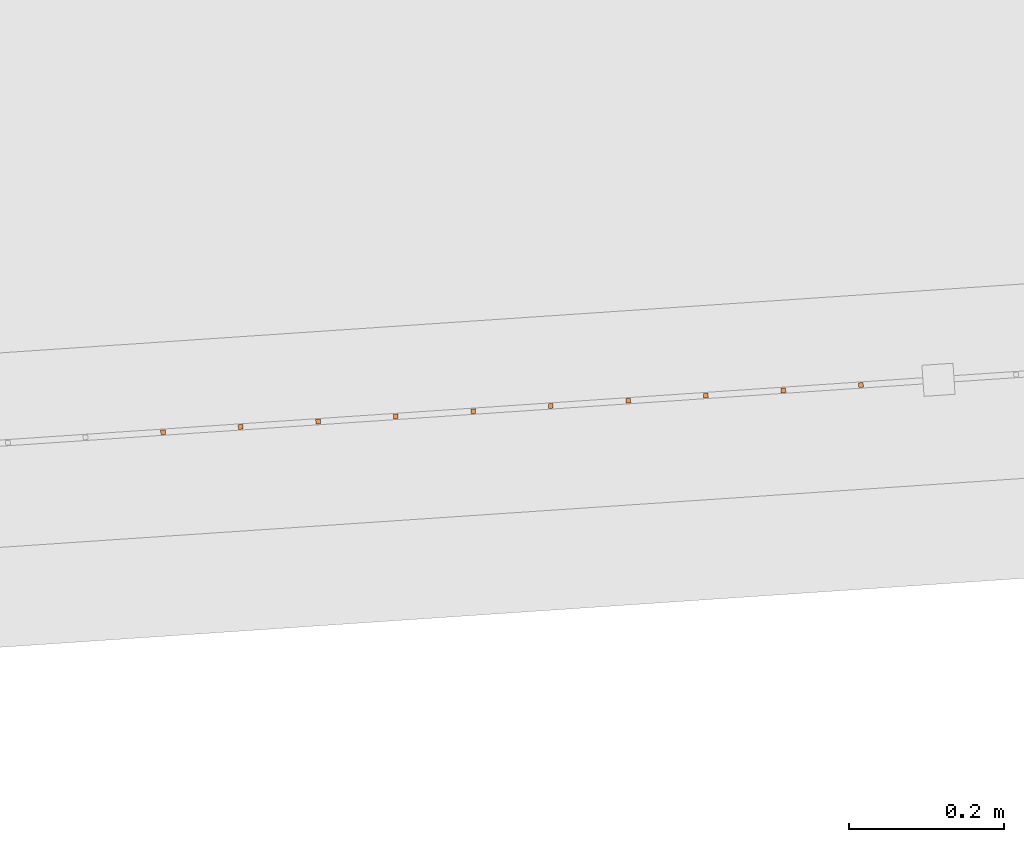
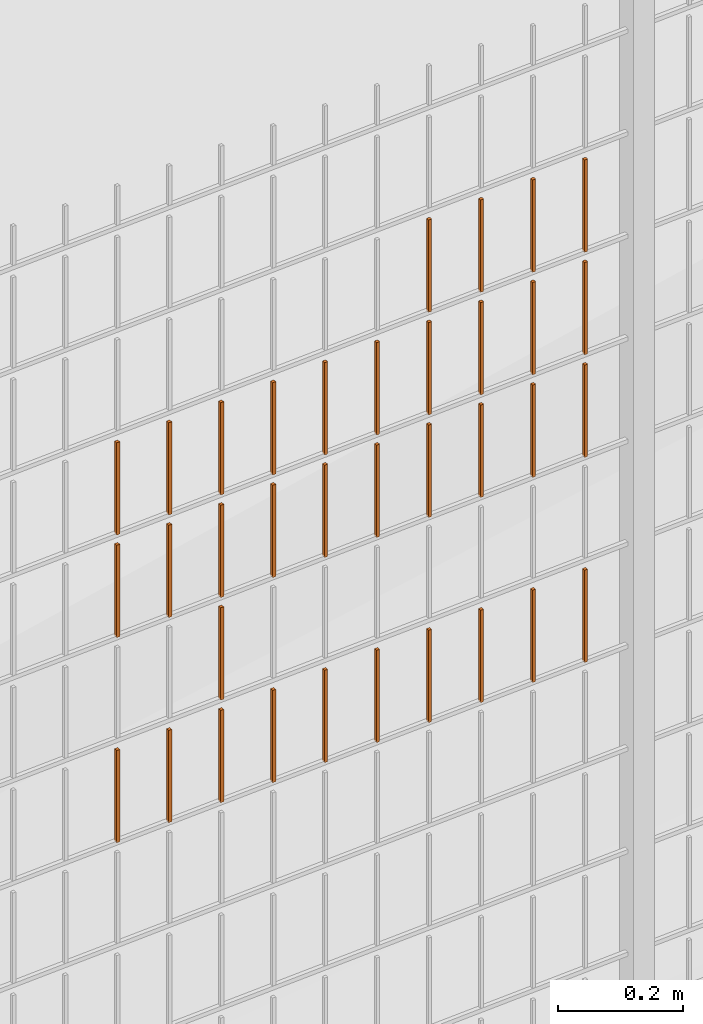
# One storey, part 95 of 1809: 35 proxies, 1 element without a shape of its own.
"""IFC2X3 building model written with IfcOpenShell, lengths in millimetres."""

from ifc_helpers import new_model, entity, si_unit, converted_unit, derived_unit, money_unit, direction, frame, origin_with_axes, place, context, subcontext, project, spatial, faceted_brep, source, transform, mapped, material, type_object, element, aggregate, save


model = new_model("IFC2X3")

# Units and contexts
model_context = context("Model", 3, precision=0.01, world=origin_with_axes(), true_north=direction((0.0, 1.0)))
body_context = subcontext(model_context, "Body", "Model", "MODEL_VIEW")
ifc_project = project(units=[si_unit("LENGTHUNIT", "METRE", prefix="MILLI"), si_unit("AREAUNIT", "SQUARE_METRE"), si_unit("VOLUMEUNIT", "CUBIC_METRE"), converted_unit("PLANEANGLEUNIT", "DEGREE", entity("IfcPlaneAngleMeasure", 0.0174532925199), si_unit("PLANEANGLEUNIT", "RADIAN"), dimensions=[0, 0, 0, 0, 0, 0, 0]), si_unit("SOLIDANGLEUNIT", "STERADIAN"), money_unit("EUR"), converted_unit("TIMEUNIT", "Year", entity("IfcTimeMeasure", 31556926.0), si_unit("TIMEUNIT", "SECOND"), dimensions=[0, 0, 1, 0, 0, 0, 0]), si_unit("MASSUNIT", "GRAM", prefix="KILO"), si_unit("THERMODYNAMICTEMPERATUREUNIT", "DEGREE_CELSIUS"), si_unit("LUMINOUSINTENSITYUNIT", "LUMEN"), si_unit("ENERGYUNIT", "JOULE", prefix="MEGA"), derived_unit("THERMALCONDUCTANCEUNIT", [(si_unit("POWERUNIT", "WATT"), 1), (si_unit("LENGTHUNIT", "METRE"), -1), (si_unit("THERMODYNAMICTEMPERATUREUNIT", "KELVIN"), -1)]), derived_unit("SPECIFICHEATCAPACITYUNIT", [(si_unit("ENERGYUNIT", "JOULE"), 1), (si_unit("MASSUNIT", "GRAM", prefix="KILO"), -1), (si_unit("THERMODYNAMICTEMPERATUREUNIT", "KELVIN"), -1)]), derived_unit("MASSDENSITYUNIT", [(si_unit("MASSUNIT", "GRAM", prefix="KILO"), 1), (si_unit("VOLUMEUNIT", "CUBIC_METRE"), -1)])], contexts=[model_context])

# Site, building, storey
site_placement = place(None, origin_with_axes())
site = spatial("IfcSite", under=ifc_project, at=site_placement, Name="Politse- ja Piirivalveameti ning Päästeameti ühishoone", CompositionType="ELEMENT")
building_placement = place(site_placement, origin_with_axes())
building = spatial("IfcBuilding", under=site, at=building_placement, Name="Politse- ja Piirivalveameti ning Päästeameti ühishoone", CompositionType="ELEMENT")
storey_placement = place(building_placement, origin_with_axes())
storey = spatial("IfcBuildingStorey", under=building, at=storey_placement, Name="Esimene korrus", CompositionType="ELEMENT", Elevation=0.0)

# Proxies
building_element_proxy_type_1 = type_object("IfcBuildingElementProxyType", Name="Railing Type", PredefinedType="NOTDEFINED")
proxy_1_placement = place(storey_placement, frame((89252.001212, -29183.4766571, 203.661247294), z_axis=(0.0, 0.0, 1.0), x_axis=(1.0, 0.0, 0.0)))
proxy_1 = element("IfcBuildingElementProxy", 1, at=proxy_1_placement, inside=storey, type_object=building_element_proxy_type_1, Name="PIIRDEAED")
ifc_material = material(Name="ET-03_Raud")
building_element_proxy_type_2 = type_object("IfcBuildingElementProxyType", Name="IfcBuildingElementProxy", PredefinedType="NOTDEFINED")
shared_shape_1 = source(origin_with_axes(), body_context, "Body", "Brep", [
    faceted_brep([(3.0, 3.0, -0.000752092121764), (-3.0, 3.0, -0.000752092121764), (-3.0, 3.0, 179.99926046), (3.0, 3.0, 179.99926046), (3.0, -3.0, 0.000752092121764), (-3.0, -3.0, 0.000752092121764), (-3.0, -3.0, 180.000764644), (3.0, -3.0, 180.000764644)], [[[0, 1, 2, 3]], [[0, 4, 5, 1]], [[1, 5, 6, 2]], [[3, 2, 6, 7]], [[4, 0, 3, 7]], [[5, 4, 7, 6]]]),
])
proxy_2_placement = place(proxy_1_placement, frame((-98103.1452171, -23924.2719931, 1202.58414305), z_axis=(0.0, 0.0, 1.0), x_axis=(1.0, 0.0, 0.0)))
proxy_2 = element("IfcBuildingElementProxy", 2, at=proxy_2_placement, type_object=building_element_proxy_type_2, material=ifc_material, Name="BALUSTER - 001", context=body_context, shape_type="MappedRepresentation", body=[
    mapped(shared_shape_1, transform((0.0, 0.0, 0.0), x_axis=(-0.0673926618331, 0.997726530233, 0.0), y_axis=(-0.997726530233, -0.0673926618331, 0.0), z_axis=(0.0, 0.0, 1.0))),
])
shared_shape_2 = source(origin_with_axes(), body_context, "Body", "Brep", [
    faceted_brep([(3.0, 3.0, -0.000752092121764), (-3.0, 3.0, -0.000752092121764), (-3.0, 3.0, 179.99926046), (3.0, 3.0, 179.99926046), (3.0, -3.0, 0.000752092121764), (-3.0, -3.0, 0.000752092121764), (-3.0, -3.0, 180.000764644), (3.0, -3.0, 180.000764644)], [[[0, 1, 2, 3]], [[0, 4, 5, 1]], [[1, 5, 6, 2]], [[3, 2, 6, 7]], [[4, 0, 3, 7]], [[5, 4, 7, 6]]]),
])
proxy_3_placement = place(proxy_1_placement, frame((-98103.1452171, -23924.2719931, 1402.58414305), z_axis=(0.0, 0.0, 1.0), x_axis=(1.0, 0.0, 0.0)))
proxy_3 = element("IfcBuildingElementProxy", 3, at=proxy_3_placement, type_object=building_element_proxy_type_2, material=ifc_material, Name="BALUSTER - 001", context=body_context, shape_type="MappedRepresentation", body=[
    mapped(shared_shape_2, transform((0.0, 0.0, 0.0), x_axis=(-0.0673926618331, 0.997726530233, 0.0), y_axis=(-0.997726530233, -0.0673926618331, 0.0), z_axis=(0.0, 0.0, 1.0))),
])
shared_shape_3 = source(origin_with_axes(), body_context, "Body", "Brep", [
    faceted_brep([(3.0, 3.0, -0.000752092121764), (-3.0, 3.0, -0.000752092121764), (-3.0, 3.0, 179.99926046), (3.0, 3.0, 179.99926046), (3.0, -3.0, 0.000752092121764), (-3.0, -3.0, 0.000752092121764), (-3.0, -3.0, 180.000764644), (3.0, -3.0, 180.000764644)], [[[0, 1, 2, 3]], [[0, 4, 5, 1]], [[1, 5, 6, 2]], [[3, 2, 6, 7]], [[4, 0, 3, 7]], [[5, 4, 7, 6]]]),
])
proxy_4_placement = place(proxy_1_placement, frame((-97604.281952, -23890.5756622, 1202.70949174), z_axis=(0.0, 0.0, 1.0), x_axis=(1.0, 0.0, 0.0)))
proxy_4 = element("IfcBuildingElementProxy", 4, at=proxy_4_placement, type_object=building_element_proxy_type_2, material=ifc_material, Name="BALUSTER - 001", context=body_context, shape_type="MappedRepresentation", body=[
    mapped(shared_shape_3, transform((0.0, 0.0, 0.0), x_axis=(-0.0673926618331, 0.997726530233, 0.0), y_axis=(-0.997726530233, -0.0673926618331, 0.0), z_axis=(0.0, 0.0, 1.0))),
])
shared_shape_4 = source(origin_with_axes(), body_context, "Body", "Brep", [
    faceted_brep([(3.0, 3.0, -0.000752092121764), (-3.0, 3.0, -0.000752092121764), (-3.0, 3.0, 179.99926046), (3.0, 3.0, 179.99926046), (3.0, -3.0, 0.000752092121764), (-3.0, -3.0, 0.000752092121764), (-3.0, -3.0, 180.000764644), (3.0, -3.0, 180.000764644)], [[[0, 1, 2, 3]], [[0, 4, 5, 1]], [[1, 5, 6, 2]], [[3, 2, 6, 7]], [[4, 0, 3, 7]], [[5, 4, 7, 6]]]),
])
proxy_5_placement = place(proxy_1_placement, frame((-97604.281952, -23890.5756622, 802.709491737), z_axis=(0.0, 0.0, 1.0), x_axis=(1.0, 0.0, 0.0)))
proxy_5 = element("IfcBuildingElementProxy", 5, at=proxy_5_placement, type_object=building_element_proxy_type_2, material=ifc_material, Name="BALUSTER - 001", context=body_context, shape_type="MappedRepresentation", body=[
    mapped(shared_shape_4, transform((0.0, 0.0, 0.0), x_axis=(-0.0673926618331, 0.997726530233, 0.0), y_axis=(-0.997726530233, -0.0673926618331, 0.0), z_axis=(0.0, 0.0, 1.0))),
])
shared_shape_5 = source(origin_with_axes(), body_context, "Body", "Brep", [
    faceted_brep([(3.0, 3.0, -0.000752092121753), (-3.0, 3.0, -0.000752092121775), (-3.0, 3.0, 179.99926046), (3.0, 3.0, 179.99926046), (3.0, -3.0, 0.000752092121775), (-3.0, -3.0, 0.000752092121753), (-3.0, -3.0, 180.000764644), (3.0, -3.0, 180.000764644)], [[[0, 1, 2, 3]], [[0, 4, 5, 1]], [[1, 5, 6, 2]], [[3, 2, 6, 7]], [[4, 0, 3, 7]], [[5, 4, 7, 6]]]),
])
proxy_6_placement = place(proxy_1_placement, frame((-97903.5999111, -23910.7934607, 1202.63428252), z_axis=(0.0, 0.0, 1.0), x_axis=(1.0, 0.0, 0.0)))
proxy_6 = element("IfcBuildingElementProxy", 6, at=proxy_6_placement, type_object=building_element_proxy_type_2, material=ifc_material, Name="BALUSTER - 001", context=body_context, shape_type="MappedRepresentation", body=[
    mapped(shared_shape_5, transform((0.0, 0.0, 0.0), x_axis=(-0.0673926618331, 0.997726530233, 0.0), y_axis=(-0.997726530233, -0.0673926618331, 0.0), z_axis=(0.0, 0.0, 1.0))),
])
shared_shape_6 = source(origin_with_axes(), body_context, "Body", "Brep", [
    faceted_brep([(3.0, 3.0, -0.000752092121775), (-3.0, 3.0, -0.000752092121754), (-3.0, 3.0, 179.99926046), (3.0, 3.0, 179.99926046), (3.0, -3.0, 0.000752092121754), (-3.0, -3.0, 0.000752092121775), (-3.0, -3.0, 180.000764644), (3.0, -3.0, 180.000764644)], [[[0, 1, 2, 3]], [[0, 4, 5, 1]], [[1, 5, 6, 2]], [[3, 2, 6, 7]], [[4, 0, 3, 7]], [[5, 4, 7, 6]]]),
])
proxy_7_placement = place(proxy_1_placement, frame((-97704.054605, -23897.3149284, 802.684422), z_axis=(0.0, 0.0, 1.0), x_axis=(1.0, 0.0, 0.0)))
proxy_7 = element("IfcBuildingElementProxy", 7, at=proxy_7_placement, type_object=building_element_proxy_type_2, material=ifc_material, Name="BALUSTER - 001", context=body_context, shape_type="MappedRepresentation", body=[
    mapped(shared_shape_6, transform((0.0, 0.0, 0.0), x_axis=(-0.0673926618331, 0.997726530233, 0.0), y_axis=(-0.997726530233, -0.0673926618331, 0.0), z_axis=(0.0, 0.0, 1.0))),
])
shared_shape_7 = source(origin_with_axes(), body_context, "Body", "Brep", [
    faceted_brep([(3.0, 3.0, -0.000752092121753), (-3.0, 3.0, -0.000752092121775), (-3.0, 3.0, 179.99926046), (3.0, 3.0, 179.99926046), (3.0, -3.0, 0.000752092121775), (-3.0, -3.0, 0.000752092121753), (-3.0, -3.0, 180.000764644), (3.0, -3.0, 180.000764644)], [[[0, 1, 2, 3]], [[0, 4, 5, 1]], [[1, 5, 6, 2]], [[3, 2, 6, 7]], [[4, 0, 3, 7]], [[5, 4, 7, 6]]]),
])
proxy_8_placement = place(proxy_1_placement, frame((-97404.7366459, -23877.0971298, 802.759631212), z_axis=(0.0, 0.0, 1.0), x_axis=(1.0, 0.0, 0.0)))
proxy_8 = element("IfcBuildingElementProxy", 8, at=proxy_8_placement, type_object=building_element_proxy_type_2, material=ifc_material, Name="BALUSTER - 001", context=body_context, shape_type="MappedRepresentation", body=[
    mapped(shared_shape_7, transform((0.0, 0.0, 0.0), x_axis=(-0.0673926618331, 0.997726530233, 0.0), y_axis=(-0.997726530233, -0.0673926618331, 0.0), z_axis=(0.0, 0.0, 1.0))),
])
proxy_9_placement = place(proxy_1_placement, frame((-97504.509299, -23883.836396, 802.734561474), z_axis=(0.0, 0.0, 1.0), x_axis=(1.0, 0.0, 0.0)))
proxy_9 = element("IfcBuildingElementProxy", 9, at=proxy_9_placement, type_object=building_element_proxy_type_2, material=ifc_material, Name="BALUSTER - 001", context=body_context, shape_type="MappedRepresentation", body=[
    mapped(shared_shape_7, transform((0.0, 0.0, 0.0), x_axis=(-0.0673926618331, 0.997726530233, 0.0), y_axis=(-0.997726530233, -0.0673926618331, 0.0), z_axis=(0.0, 0.0, 1.0))),
])
proxy_10_placement = place(proxy_1_placement, frame((-97803.827258, -23904.0541946, 1202.65935226), z_axis=(0.0, 0.0, 1.0), x_axis=(1.0, 0.0, 0.0)))
proxy_10 = element("IfcBuildingElementProxy", 10, at=proxy_10_placement, type_object=building_element_proxy_type_2, material=ifc_material, Name="BALUSTER - 001", context=body_context, shape_type="MappedRepresentation", body=[
    mapped(shared_shape_7, transform((0.0, 0.0, 0.0), x_axis=(-0.0673926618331, 0.997726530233, 0.0), y_axis=(-0.997726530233, -0.0673926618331, 0.0), z_axis=(0.0, 0.0, 1.0))),
])
shared_shape_8 = source(origin_with_axes(), body_context, "Body", "Brep", [
    faceted_brep([(3.0, 3.0, -0.000752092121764), (-3.0, 3.0, -0.000752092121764), (-3.0, 3.0, 179.99926046), (3.0, 3.0, 179.99926046), (3.0, -3.0, 0.000752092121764), (-3.0, -3.0, 0.000752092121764), (-3.0, -3.0, 180.000764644), (3.0, -3.0, 180.000764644)], [[[0, 1, 2, 3]], [[0, 4, 5, 1]], [[1, 5, 6, 2]], [[3, 2, 6, 7]], [[4, 0, 3, 7]], [[5, 4, 7, 6]]]),
])
proxy_11_placement = place(proxy_1_placement, frame((-97304.9639929, -23870.3578636, 802.784700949), z_axis=(0.0, 0.0, 1.0), x_axis=(1.0, 0.0, 0.0)))
proxy_11 = element("IfcBuildingElementProxy", 11, at=proxy_11_placement, type_object=building_element_proxy_type_2, material=ifc_material, Name="BALUSTER - 001", context=body_context, shape_type="MappedRepresentation", body=[
    mapped(shared_shape_8, transform((0.0, 0.0, 0.0), x_axis=(-0.0673926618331, 0.997726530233, 0.0), y_axis=(-0.997726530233, -0.0673926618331, 0.0), z_axis=(0.0, 0.0, 1.0))),
])
proxy_12_placement = place(proxy_1_placement, frame((-97903.5999111, -23910.7934607, 802.634282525), z_axis=(0.0, 0.0, 1.0), x_axis=(1.0, 0.0, 0.0)))
proxy_12 = element("IfcBuildingElementProxy", 12, at=proxy_12_placement, type_object=building_element_proxy_type_2, material=ifc_material, Name="BALUSTER - 001", context=body_context, shape_type="MappedRepresentation", body=[
    mapped(shared_shape_8, transform((0.0, 0.0, 0.0), x_axis=(-0.0673926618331, 0.997726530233, 0.0), y_axis=(-0.997726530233, -0.0673926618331, 0.0), z_axis=(0.0, 0.0, 1.0))),
])
proxy_13_placement = place(proxy_1_placement, frame((-98003.3725641, -23917.5327269, 1202.60921279), z_axis=(0.0, 0.0, 1.0), x_axis=(1.0, 0.0, 0.0)))
proxy_13 = element("IfcBuildingElementProxy", 13, at=proxy_13_placement, type_object=building_element_proxy_type_2, material=ifc_material, Name="BALUSTER - 001", context=body_context, shape_type="MappedRepresentation", body=[
    mapped(shared_shape_8, transform((0.0, 0.0, 0.0), x_axis=(-0.0673926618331, 0.997726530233, 0.0), y_axis=(-0.997726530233, -0.0673926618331, 0.0), z_axis=(0.0, 0.0, 1.0))),
])
shared_shape_9 = source(origin_with_axes(), body_context, "Body", "Brep", [
    faceted_brep([(3.0, 3.0, -0.000752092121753), (-3.0, 3.0, -0.000752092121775), (-3.0, 3.0, 179.99926046), (3.0, 3.0, 179.99926046), (3.0, -3.0, 0.000752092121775), (-3.0, -3.0, 0.000752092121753), (-3.0, -3.0, 180.000764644), (3.0, -3.0, 180.000764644)], [[[0, 1, 2, 3]], [[0, 4, 5, 1]], [[1, 5, 6, 2]], [[3, 2, 6, 7]], [[4, 0, 3, 7]], [[5, 4, 7, 6]]]),
])
proxy_14_placement = place(proxy_1_placement, frame((-98003.3725641, -23917.5327269, 802.609212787), z_axis=(0.0, 0.0, 1.0), x_axis=(1.0, 0.0, 0.0)))
proxy_14 = element("IfcBuildingElementProxy", 14, at=proxy_14_placement, type_object=building_element_proxy_type_2, material=ifc_material, Name="BALUSTER - 001", context=body_context, shape_type="MappedRepresentation", body=[
    mapped(shared_shape_9, transform((0.0, 0.0, 0.0), x_axis=(-0.0673926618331, 0.997726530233, 0.0), y_axis=(-0.997726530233, -0.0673926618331, 0.0), z_axis=(0.0, 0.0, 1.0))),
])
proxy_15_placement = place(proxy_1_placement, frame((-97304.9639929, -23870.3578636, 1202.78470095), z_axis=(0.0, 0.0, 1.0), x_axis=(1.0, 0.0, 0.0)))
proxy_15 = element("IfcBuildingElementProxy", 15, at=proxy_15_placement, type_object=building_element_proxy_type_2, material=ifc_material, Name="BALUSTER - 001", context=body_context, shape_type="MappedRepresentation", body=[
    mapped(shared_shape_9, transform((0.0, 0.0, 0.0), x_axis=(-0.0673926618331, 0.997726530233, 0.0), y_axis=(-0.997726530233, -0.0673926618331, 0.0), z_axis=(0.0, 0.0, 1.0))),
])
shared_shape_10 = source(origin_with_axes(), body_context, "Body", "Brep", [
    faceted_brep([(3.0, 3.0, -0.000752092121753), (-3.0, 3.0, -0.000752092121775), (-3.0, 3.0, 179.99926046), (3.0, 3.0, 179.99926046), (3.0, -3.0, 0.000752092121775), (-3.0, -3.0, 0.000752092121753), (-3.0, -3.0, 180.000764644), (3.0, -3.0, 180.000764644)], [[[0, 1, 2, 3]], [[0, 4, 5, 1]], [[1, 5, 6, 2]], [[3, 2, 6, 7]], [[4, 0, 3, 7]], [[5, 4, 7, 6]]]),
])
proxy_16_placement = place(proxy_1_placement, frame((-97903.5999111, -23910.7934607, 1402.63428252), z_axis=(0.0, 0.0, 1.0), x_axis=(1.0, 0.0, 0.0)))
proxy_16 = element("IfcBuildingElementProxy", 16, at=proxy_16_placement, type_object=building_element_proxy_type_2, material=ifc_material, Name="BALUSTER - 001", context=body_context, shape_type="MappedRepresentation", body=[
    mapped(shared_shape_10, transform((0.0, 0.0, 0.0), x_axis=(-0.0673926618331, 0.997726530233, 0.0), y_axis=(-0.997726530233, -0.0673926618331, 0.0), z_axis=(0.0, 0.0, 1.0))),
])
shared_shape_11 = source(origin_with_axes(), body_context, "Body", "Brep", [
    faceted_brep([(3.0, 3.0, -0.000752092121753), (-3.0, 3.0, -0.000752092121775), (-3.0, 3.0, 179.99926046), (3.0, 3.0, 179.99926046), (3.0, -3.0, 0.000752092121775), (-3.0, -3.0, 0.000752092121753), (-3.0, -3.0, 180.000764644), (3.0, -3.0, 180.000764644)], [[[0, 1, 2, 3]], [[0, 4, 5, 1]], [[1, 5, 6, 2]], [[3, 2, 6, 7]], [[4, 0, 3, 7]], [[5, 4, 7, 6]]]),
])
proxy_17_placement = place(proxy_1_placement, frame((-97803.827258, -23904.0541946, 1402.65935226), z_axis=(0.0, 0.0, 1.0), x_axis=(1.0, 0.0, 0.0)))
proxy_17 = element("IfcBuildingElementProxy", 17, at=proxy_17_placement, type_object=building_element_proxy_type_2, material=ifc_material, Name="BALUSTER - 001", context=body_context, shape_type="MappedRepresentation", body=[
    mapped(shared_shape_11, transform((0.0, 0.0, 0.0), x_axis=(-0.0673926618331, 0.997726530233, 0.0), y_axis=(-0.997726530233, -0.0673926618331, 0.0), z_axis=(0.0, 0.0, 1.0))),
])
shared_shape_12 = source(origin_with_axes(), body_context, "Body", "Brep", [
    faceted_brep([(3.0, 3.0, -0.000752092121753), (-3.0, 3.0, -0.000752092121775), (-3.0, 3.0, 179.99926046), (3.0, 3.0, 179.99926046), (3.0, -3.0, 0.000752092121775), (-3.0, -3.0, 0.000752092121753), (-3.0, -3.0, 180.000764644), (3.0, -3.0, 180.000764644)], [[[0, 1, 2, 3]], [[0, 4, 5, 1]], [[1, 5, 6, 2]], [[3, 2, 6, 7]], [[4, 0, 3, 7]], [[5, 4, 7, 6]]]),
])
proxy_18_placement = place(proxy_1_placement, frame((-97304.9639929, -23870.3578636, 1402.78470095), z_axis=(0.0, 0.0, 1.0), x_axis=(1.0, 0.0, 0.0)))
proxy_18 = element("IfcBuildingElementProxy", 18, at=proxy_18_placement, type_object=building_element_proxy_type_2, material=ifc_material, Name="BALUSTER - 001", context=body_context, shape_type="MappedRepresentation", body=[
    mapped(shared_shape_12, transform((0.0, 0.0, 0.0), x_axis=(-0.0673926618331, 0.997726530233, 0.0), y_axis=(-0.997726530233, -0.0673926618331, 0.0), z_axis=(0.0, 0.0, 1.0))),
])
proxy_19_placement = place(proxy_1_placement, frame((-97304.9639929, -23870.3578636, 1602.78470095), z_axis=(0.0, 0.0, 1.0), x_axis=(1.0, 0.0, 0.0)))
proxy_19 = element("IfcBuildingElementProxy", 19, at=proxy_19_placement, type_object=building_element_proxy_type_2, material=ifc_material, Name="BALUSTER - 001", context=body_context, shape_type="MappedRepresentation", body=[
    mapped(shared_shape_12, transform((0.0, 0.0, 0.0), x_axis=(-0.0673926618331, 0.997726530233, 0.0), y_axis=(-0.997726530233, -0.0673926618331, 0.0), z_axis=(0.0, 0.0, 1.0))),
])
shared_shape_13 = source(origin_with_axes(), body_context, "Body", "Brep", [
    faceted_brep([(3.0, 3.0, -0.000752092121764), (-3.0, 3.0, -0.000752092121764), (-3.0, 3.0, 179.99926046), (3.0, 3.0, 179.99926046), (3.0, -3.0, 0.000752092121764), (-3.0, -3.0, 0.000752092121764), (-3.0, -3.0, 180.000764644), (3.0, -3.0, 180.000764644)], [[[0, 1, 2, 3]], [[0, 4, 5, 1]], [[1, 5, 6, 2]], [[3, 2, 6, 7]], [[4, 0, 3, 7]], [[5, 4, 7, 6]]]),
])
proxy_20_placement = place(proxy_1_placement, frame((-98003.3725641, -23917.5327269, 1402.60921279), z_axis=(0.0, 0.0, 1.0), x_axis=(1.0, 0.0, 0.0)))
proxy_20 = element("IfcBuildingElementProxy", 20, at=proxy_20_placement, type_object=building_element_proxy_type_2, material=ifc_material, Name="BALUSTER - 001", context=body_context, shape_type="MappedRepresentation", body=[
    mapped(shared_shape_13, transform((0.0, 0.0, 0.0), x_axis=(-0.0673926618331, 0.997726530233, 0.0), y_axis=(-0.997726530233, -0.0673926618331, 0.0), z_axis=(0.0, 0.0, 1.0))),
])
shared_shape_14 = source(origin_with_axes(), body_context, "Body", "Brep", [
    faceted_brep([(3.0, 3.0, -0.000752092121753), (-3.0, 3.0, -0.000752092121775), (-3.0, 3.0, 179.99926046), (3.0, 3.0, 179.99926046), (3.0, -3.0, 0.000752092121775), (-3.0, -3.0, 0.000752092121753), (-3.0, -3.0, 180.000764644), (3.0, -3.0, 180.000764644)], [[[0, 1, 2, 3]], [[0, 4, 5, 1]], [[1, 5, 6, 2]], [[3, 2, 6, 7]], [[4, 0, 3, 7]], [[5, 4, 7, 6]]]),
])
proxy_21_placement = place(proxy_1_placement, frame((-97704.054605, -23897.3149284, 1202.684422), z_axis=(0.0, 0.0, 1.0), x_axis=(1.0, 0.0, 0.0)))
proxy_21 = element("IfcBuildingElementProxy", 21, at=proxy_21_placement, type_object=building_element_proxy_type_2, material=ifc_material, Name="BALUSTER - 001", context=body_context, shape_type="MappedRepresentation", body=[
    mapped(shared_shape_14, transform((0.0, 0.0, 0.0), x_axis=(-0.0673926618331, 0.997726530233, 0.0), y_axis=(-0.997726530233, -0.0673926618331, 0.0), z_axis=(0.0, 0.0, 1.0))),
])
shared_shape_15 = source(origin_with_axes(), body_context, "Body", "Brep", [
    faceted_brep([(3.0, 3.0, -0.000752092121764), (-3.0, 3.0, -0.000752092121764), (-3.0, 3.0, 179.99926046), (3.0, 3.0, 179.99926046), (3.0, -3.0, 0.000752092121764), (-3.0, -3.0, 0.000752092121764), (-3.0, -3.0, 180.000764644), (3.0, -3.0, 180.000764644)], [[[0, 1, 2, 3]], [[0, 4, 5, 1]], [[1, 5, 6, 2]], [[3, 2, 6, 7]], [[4, 0, 3, 7]], [[5, 4, 7, 6]]]),
])
proxy_22_placement = place(proxy_1_placement, frame((-97404.7366459, -23877.0971298, 1202.75963121), z_axis=(0.0, 0.0, 1.0), x_axis=(1.0, 0.0, 0.0)))
proxy_22 = element("IfcBuildingElementProxy", 22, at=proxy_22_placement, type_object=building_element_proxy_type_2, material=ifc_material, Name="BALUSTER - 001", context=body_context, shape_type="MappedRepresentation", body=[
    mapped(shared_shape_15, transform((0.0, 0.0, 0.0), x_axis=(-0.0673926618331, 0.997726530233, 0.0), y_axis=(-0.997726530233, -0.0673926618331, 0.0), z_axis=(0.0, 0.0, 1.0))),
])
shared_shape_16 = source(origin_with_axes(), body_context, "Body", "Brep", [
    faceted_brep([(3.0, 3.0, -0.000752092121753), (-3.0, 3.0, -0.000752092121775), (-3.0, 3.0, 179.99926046), (3.0, 3.0, 179.99926046), (3.0, -3.0, 0.000752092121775), (-3.0, -3.0, 0.000752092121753), (-3.0, -3.0, 180.000764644), (3.0, -3.0, 180.000764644)], [[[0, 1, 2, 3]], [[0, 4, 5, 1]], [[1, 5, 6, 2]], [[3, 2, 6, 7]], [[4, 0, 3, 7]], [[5, 4, 7, 6]]]),
])
proxy_23_placement = place(proxy_1_placement, frame((-98103.1452171, -23924.2719931, 802.58414305), z_axis=(0.0, 0.0, 1.0), x_axis=(1.0, 0.0, 0.0)))
proxy_23 = element("IfcBuildingElementProxy", 23, at=proxy_23_placement, type_object=building_element_proxy_type_2, material=ifc_material, Name="BALUSTER - 001", context=body_context, shape_type="MappedRepresentation", body=[
    mapped(shared_shape_16, transform((0.0, 0.0, 0.0), x_axis=(-0.0673926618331, 0.997726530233, 0.0), y_axis=(-0.997726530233, -0.0673926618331, 0.0), z_axis=(0.0, 0.0, 1.0))),
])
shared_shape_17 = source(origin_with_axes(), body_context, "Body", "Brep", [
    faceted_brep([(3.0, 3.0, -0.000752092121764), (-3.0, 3.0, -0.000752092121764), (-3.0, 3.0, 179.99926046), (3.0, 3.0, 179.99926046), (3.0, -3.0, 0.000752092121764), (-3.0, -3.0, 0.000752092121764), (-3.0, -3.0, 180.000764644), (3.0, -3.0, 180.000764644)], [[[0, 1, 2, 3]], [[0, 4, 5, 1]], [[1, 5, 6, 2]], [[3, 2, 6, 7]], [[4, 0, 3, 7]], [[5, 4, 7, 6]]]),
])
proxy_24_placement = place(proxy_1_placement, frame((-97404.7366459, -23877.0971298, 1402.75963121), z_axis=(0.0, 0.0, 1.0), x_axis=(1.0, 0.0, 0.0)))
proxy_24 = element("IfcBuildingElementProxy", 24, at=proxy_24_placement, type_object=building_element_proxy_type_2, material=ifc_material, Name="BALUSTER - 001", context=body_context, shape_type="MappedRepresentation", body=[
    mapped(shared_shape_17, transform((0.0, 0.0, 0.0), x_axis=(-0.0673926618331, 0.997726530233, 0.0), y_axis=(-0.997726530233, -0.0673926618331, 0.0), z_axis=(0.0, 0.0, 1.0))),
])
proxy_25_placement = place(proxy_1_placement, frame((-97404.7366459, -23877.0971298, 1602.75963121), z_axis=(0.0, 0.0, 1.0), x_axis=(1.0, 0.0, 0.0)))
proxy_25 = element("IfcBuildingElementProxy", 25, at=proxy_25_placement, type_object=building_element_proxy_type_2, material=ifc_material, Name="BALUSTER - 001", context=body_context, shape_type="MappedRepresentation", body=[
    mapped(shared_shape_17, transform((0.0, 0.0, 0.0), x_axis=(-0.0673926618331, 0.997726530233, 0.0), y_axis=(-0.997726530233, -0.0673926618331, 0.0), z_axis=(0.0, 0.0, 1.0))),
])
shared_shape_18 = source(origin_with_axes(), body_context, "Body", "Brep", [
    faceted_brep([(3.0, 3.0, -0.000752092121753), (-3.0, 3.0, -0.000752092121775), (-3.0, 3.0, 179.99926046), (3.0, 3.0, 179.99926046), (3.0, -3.0, 0.000752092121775), (-3.0, -3.0, 0.000752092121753), (-3.0, -3.0, 180.000764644), (3.0, -3.0, 180.000764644)], [[[0, 1, 2, 3]], [[0, 4, 5, 1]], [[1, 5, 6, 2]], [[3, 2, 6, 7]], [[4, 0, 3, 7]], [[5, 4, 7, 6]]]),
])
proxy_26_placement = place(proxy_1_placement, frame((-97704.054605, -23897.3149284, 1402.684422), z_axis=(0.0, 0.0, 1.0), x_axis=(1.0, 0.0, 0.0)))
proxy_26 = element("IfcBuildingElementProxy", 26, at=proxy_26_placement, type_object=building_element_proxy_type_2, material=ifc_material, Name="BALUSTER - 001", context=body_context, shape_type="MappedRepresentation", body=[
    mapped(shared_shape_18, transform((0.0, 0.0, 0.0), x_axis=(-0.0673926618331, 0.997726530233, 0.0), y_axis=(-0.997726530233, -0.0673926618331, 0.0), z_axis=(0.0, 0.0, 1.0))),
])
shared_shape_19 = source(origin_with_axes(), body_context, "Body", "Brep", [
    faceted_brep([(3.0, 3.0, -0.000752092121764), (-3.0, 3.0, -0.000752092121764), (-3.0, 3.0, 179.99926046), (3.0, 3.0, 179.99926046), (3.0, -3.0, 0.000752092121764), (-3.0, -3.0, 0.000752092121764), (-3.0, -3.0, 180.000764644), (3.0, -3.0, 180.000764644)], [[[0, 1, 2, 3]], [[0, 4, 5, 1]], [[1, 5, 6, 2]], [[3, 2, 6, 7]], [[4, 0, 3, 7]], [[5, 4, 7, 6]]]),
])
proxy_27_placement = place(proxy_1_placement, frame((-97604.281952, -23890.5756622, 1402.70949174), z_axis=(0.0, 0.0, 1.0), x_axis=(1.0, 0.0, 0.0)))
proxy_27 = element("IfcBuildingElementProxy", 27, at=proxy_27_placement, type_object=building_element_proxy_type_2, material=ifc_material, Name="BALUSTER - 001", context=body_context, shape_type="MappedRepresentation", body=[
    mapped(shared_shape_19, transform((0.0, 0.0, 0.0), x_axis=(-0.0673926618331, 0.997726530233, 0.0), y_axis=(-0.997726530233, -0.0673926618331, 0.0), z_axis=(0.0, 0.0, 1.0))),
])
shared_shape_20 = source(origin_with_axes(), body_context, "Body", "Brep", [
    faceted_brep([(3.0, 3.0, -0.000752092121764), (-3.0, 3.0, -0.000752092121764), (-3.0, 3.0, 179.99926046), (3.0, 3.0, 179.99926046), (3.0, -3.0, 0.000752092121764), (-3.0, -3.0, 0.000752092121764), (-3.0, -3.0, 180.000764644), (3.0, -3.0, 180.000764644)], [[[0, 1, 2, 3]], [[0, 4, 5, 1]], [[1, 5, 6, 2]], [[3, 2, 6, 7]], [[4, 0, 3, 7]], [[5, 4, 7, 6]]]),
])
proxy_28_placement = place(proxy_1_placement, frame((-97803.827258, -23904.0541946, 802.659352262), z_axis=(0.0, 0.0, 1.0), x_axis=(1.0, 0.0, 0.0)))
proxy_28 = element("IfcBuildingElementProxy", 28, at=proxy_28_placement, type_object=building_element_proxy_type_2, material=ifc_material, Name="BALUSTER - 001", context=body_context, shape_type="MappedRepresentation", body=[
    mapped(shared_shape_20, transform((0.0, 0.0, 0.0), x_axis=(-0.0673926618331, 0.997726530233, 0.0), y_axis=(-0.997726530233, -0.0673926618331, 0.0), z_axis=(0.0, 0.0, 1.0))),
])
shared_shape_21 = source(origin_with_axes(), body_context, "Body", "Brep", [
    faceted_brep([(3.0, 3.0, -0.000752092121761), (-3.0, 3.0, -0.000752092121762), (-3.0, 3.0, 179.99926046), (3.0, 3.0, 179.99926046), (3.0, -3.0, 0.000752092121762), (-3.0, -3.0, 0.000752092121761), (-3.0, -3.0, 180.000764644), (3.0, -3.0, 180.000764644)], [[[0, 1, 2, 3]], [[0, 4, 5, 1]], [[1, 5, 6, 2]], [[3, 2, 6, 7]], [[4, 0, 3, 7]], [[5, 4, 7, 6]]]),
])
proxy_29_placement = place(proxy_1_placement, frame((-97205.1913399, -23863.6185975, 802.809770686), z_axis=(0.0, 0.0, 1.0), x_axis=(1.0, 0.0, 0.0)))
proxy_29 = element("IfcBuildingElementProxy", 29, at=proxy_29_placement, type_object=building_element_proxy_type_2, material=ifc_material, Name="BALUSTER - 001", context=body_context, shape_type="MappedRepresentation", body=[
    mapped(shared_shape_21, transform((0.0, 0.0, 0.0), x_axis=(-0.0673926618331, 0.997726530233, 0.0), y_axis=(-0.997726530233, -0.0673926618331, 0.0), z_axis=(0.0, 0.0, 1.0))),
])
shared_shape_22 = source(origin_with_axes(), body_context, "Body", "Brep", [
    faceted_brep([(3.0, 3.0, -0.000752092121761), (-3.0, 3.0, -0.000752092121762), (-3.0, 3.0, 179.99926046), (3.0, 3.0, 179.99926046), (3.0, -3.0, 0.000752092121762), (-3.0, -3.0, 0.000752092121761), (-3.0, -3.0, 180.000764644), (3.0, -3.0, 180.000764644)], [[[0, 1, 2, 3]], [[0, 4, 5, 1]], [[1, 5, 6, 2]], [[3, 2, 6, 7]], [[4, 0, 3, 7]], [[5, 4, 7, 6]]]),
])
proxy_30_placement = place(proxy_1_placement, frame((-97205.1913399, -23863.6185975, 1202.80977069), z_axis=(0.0, 0.0, 1.0), x_axis=(1.0, 0.0, 0.0)))
proxy_30 = element("IfcBuildingElementProxy", 30, at=proxy_30_placement, type_object=building_element_proxy_type_2, material=ifc_material, Name="BALUSTER - 001", context=body_context, shape_type="MappedRepresentation", body=[
    mapped(shared_shape_22, transform((0.0, 0.0, 0.0), x_axis=(-0.0673926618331, 0.997726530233, 0.0), y_axis=(-0.997726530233, -0.0673926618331, 0.0), z_axis=(0.0, 0.0, 1.0))),
])
shared_shape_23 = source(origin_with_axes(), body_context, "Body", "Brep", [
    faceted_brep([(3.0, 3.0, -0.000752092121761), (-3.0, 3.0, -0.000752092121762), (-3.0, 3.0, 179.99926046), (3.0, 3.0, 179.99926046), (3.0, -3.0, 0.000752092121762), (-3.0, -3.0, 0.000752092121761), (-3.0, -3.0, 180.000764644), (3.0, -3.0, 180.000764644)], [[[0, 1, 2, 3]], [[0, 4, 5, 1]], [[1, 5, 6, 2]], [[3, 2, 6, 7]], [[4, 0, 3, 7]], [[5, 4, 7, 6]]]),
])
proxy_31_placement = place(proxy_1_placement, frame((-97205.1913399, -23863.6185975, 1402.80977069), z_axis=(0.0, 0.0, 1.0), x_axis=(1.0, 0.0, 0.0)))
proxy_31 = element("IfcBuildingElementProxy", 31, at=proxy_31_placement, type_object=building_element_proxy_type_2, material=ifc_material, Name="BALUSTER - 001", context=body_context, shape_type="MappedRepresentation", body=[
    mapped(shared_shape_23, transform((0.0, 0.0, 0.0), x_axis=(-0.0673926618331, 0.997726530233, 0.0), y_axis=(-0.997726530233, -0.0673926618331, 0.0), z_axis=(0.0, 0.0, 1.0))),
])
proxy_32_placement = place(proxy_1_placement, frame((-97205.1913399, -23863.6185975, 1602.80977069), z_axis=(0.0, 0.0, 1.0), x_axis=(1.0, 0.0, 0.0)))
proxy_32 = element("IfcBuildingElementProxy", 32, at=proxy_32_placement, type_object=building_element_proxy_type_2, material=ifc_material, Name="BALUSTER - 001", context=body_context, shape_type="MappedRepresentation", body=[
    mapped(shared_shape_23, transform((0.0, 0.0, 0.0), x_axis=(-0.0673926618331, 0.997726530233, 0.0), y_axis=(-0.997726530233, -0.0673926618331, 0.0), z_axis=(0.0, 0.0, 1.0))),
])
shared_shape_24 = source(origin_with_axes(), body_context, "Body", "Brep", [
    faceted_brep([(3.0, 3.0, -0.000752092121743), (-3.0, 3.0, -0.000752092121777), (-3.00000000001, 3.00000000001, 179.99926046), (2.99999999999, 3.00000000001, 179.99926046), (3.0, -3.0, 0.000752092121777), (-3.0, -3.0, 0.000752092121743), (-3.00000000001, -2.99999999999, 180.000764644), (2.99999999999, -2.99999999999, 180.000764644)], [[[0, 1, 2, 3]], [[0, 4, 5, 1]], [[1, 5, 6, 2]], [[3, 2, 6, 7]], [[4, 0, 3, 7]], [[5, 4, 7, 6]]]),
])
proxy_33_placement = place(proxy_1_placement, frame((-97903.5999111, -23910.7934607, 1002.63428252), z_axis=(0.0, 0.0, 1.0), x_axis=(1.0, 0.0, 0.0)))
proxy_33 = element("IfcBuildingElementProxy", 33, at=proxy_33_placement, type_object=building_element_proxy_type_2, material=ifc_material, Name="BALUSTER - 001", context=body_context, shape_type="MappedRepresentation", body=[
    mapped(shared_shape_24, transform((0.0, 0.0, 0.0), x_axis=(-0.0673926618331, 0.997726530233, 0.0), y_axis=(-0.997726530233, -0.0673926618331, 0.0), z_axis=(0.0, 0.0, 1.0))),
])
shared_shape_25 = source(origin_with_axes(), body_context, "Body", "Brep", [
    faceted_brep([(3.0, 3.0, -0.000752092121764), (-3.0, 3.0, -0.000752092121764), (-3.0, 3.0, 179.99926046), (3.0, 3.0, 179.99926046), (3.0, -3.0, 0.000752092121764), (-3.0, -3.0, 0.000752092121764), (-3.0, -3.0, 180.000764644), (3.0, -3.0, 180.000764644)], [[[0, 1, 2, 3]], [[0, 4, 5, 1]], [[1, 5, 6, 2]], [[3, 2, 6, 7]], [[4, 0, 3, 7]], [[5, 4, 7, 6]]]),
])
proxy_34_placement = place(proxy_1_placement, frame((-97504.509299, -23883.836396, 1202.73456147), z_axis=(0.0, 0.0, 1.0), x_axis=(1.0, 0.0, 0.0)))
proxy_34 = element("IfcBuildingElementProxy", 34, at=proxy_34_placement, type_object=building_element_proxy_type_2, material=ifc_material, Name="BALUSTER - 001", context=body_context, shape_type="MappedRepresentation", body=[
    mapped(shared_shape_25, transform((0.0, 0.0, 0.0), x_axis=(-0.0673926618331, 0.997726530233, 0.0), y_axis=(-0.997726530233, -0.0673926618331, 0.0), z_axis=(0.0, 0.0, 1.0))),
])
shared_shape_26 = source(origin_with_axes(), body_context, "Body", "Brep", [
    faceted_brep([(3.0, 3.0, -0.000752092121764), (-3.0, 3.0, -0.000752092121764), (-3.0, 3.0, 179.99926046), (3.0, 3.0, 179.99926046), (3.0, -3.0, 0.000752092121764), (-3.0, -3.0, 0.000752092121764), (-3.0, -3.0, 180.000764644), (3.0, -3.0, 180.000764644)], [[[0, 1, 2, 3]], [[0, 4, 5, 1]], [[1, 5, 6, 2]], [[3, 2, 6, 7]], [[4, 0, 3, 7]], [[5, 4, 7, 6]]]),
])
proxy_35_placement = place(proxy_1_placement, frame((-97504.509299, -23883.836396, 1402.73456147), z_axis=(0.0, 0.0, 1.0), x_axis=(1.0, 0.0, 0.0)))
proxy_35 = element("IfcBuildingElementProxy", 35, at=proxy_35_placement, type_object=building_element_proxy_type_2, material=ifc_material, Name="BALUSTER - 001", context=body_context, shape_type="MappedRepresentation", body=[
    mapped(shared_shape_26, transform((0.0, 0.0, 0.0), x_axis=(-0.0673926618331, 0.997726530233, 0.0), y_axis=(-0.997726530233, -0.0673926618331, 0.0), z_axis=(0.0, 0.0, 1.0))),
])
proxy_36_placement = place(proxy_1_placement, frame((-97504.509299, -23883.836396, 1602.73456147), z_axis=(0.0, 0.0, 1.0), x_axis=(1.0, 0.0, 0.0)))
proxy_36 = element("IfcBuildingElementProxy", 36, at=proxy_36_placement, type_object=building_element_proxy_type_2, material=ifc_material, Name="BALUSTER - 001", context=body_context, shape_type="MappedRepresentation", body=[
    mapped(shared_shape_26, transform((0.0, 0.0, 0.0), x_axis=(-0.0673926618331, 0.997726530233, 0.0), y_axis=(-0.997726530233, -0.0673926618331, 0.0), z_axis=(0.0, 0.0, 1.0))),
])
aggregate(proxy_1, [proxy_29, proxy_11, proxy_8, proxy_9, proxy_5, proxy_7, proxy_28, proxy_12, proxy_14, proxy_23, proxy_33, proxy_30, proxy_15, proxy_22, proxy_34, proxy_4, proxy_21, proxy_10, proxy_6, proxy_13, proxy_2, proxy_31, proxy_18, proxy_24, proxy_35, proxy_27, proxy_26, proxy_17, proxy_16, proxy_20, proxy_3, proxy_32, proxy_19, proxy_25, proxy_36])

save(model, "model.ifc")
